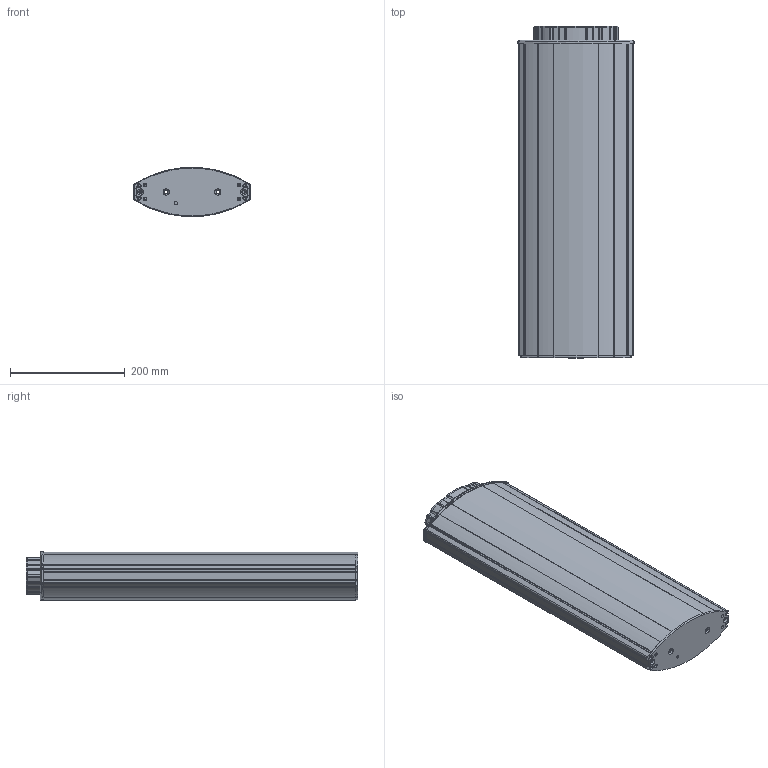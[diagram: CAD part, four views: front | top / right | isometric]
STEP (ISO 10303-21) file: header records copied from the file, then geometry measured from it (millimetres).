
FILE_DESCRIPTION (( 'STEP AP203' ), '1' );
FILE_NAME ('T180-3 eingefahren.STEP', '2008-04-25T09:01:37', ( 'PC' ), ( 'PC' ), 'SwSTEP 2.0', 'SolidWorks 2007', '' );
FILE_SCHEMA (( 'CONFIG_CONTROL_DESIGN' ));
Length unit declared in the file: millimetre
Products named in the file (21): Gleiterunterteil_Standard; T180M_Standard; Gleiteroberteil_Standard; Gleiterschraube_Standard; Brille M_Standard; GEWINDE_Standard; T180-3 eingefahren; fußplatte_3mm gelasert; T180A_Standard; Endschalterbetätiger_Standard; Gleiter_vormontiert; T180I_Standard; kopfplatte_Standard; Gleiter_eingestellt; Gleiterscheibe_Standard; Schalldämpfer#_Standard; Gleiter fest_Standard; Brille A_Standard
Assembly tree (34 placements, depth 4):
  T180-3 eingefahren
    GEWINDE_Standard
    fußplatte_3mm gelasert
    T180I_Standard
      Gleiter_eingestellt  x2
        Gleiteroberteil_Standard
        Gleiterschraube_Standard
        Gleiterscheibe_Standard
        Gleiterunterteil_Standard
      Schalldämpfer#_Standard
      T180I_Standard
      kopfplatte_Standard
      Gleiter fest_Standard  x2
    Brille A_Standard
    T180M_Standard
      Gleiter_eingestellt  x2
        Gleiteroberteil_Standard
        Gleiterschraube_Standard
        Gleiterscheibe_Standard
        Gleiterunterteil_Standard
      Gleiter fest_Standard  x2
      T180M_Standard
    Brille M_Standard
    T180A_Standard
      Gleiter fest_Standard  x2
      Endschalterbetätiger_Standard  x2
      Gleiter_eingestellt
        Gleiteroberteil_Standard
        Gleiterschraube_Standard
        Gleiterscheibe_Standard
        Gleiterunterteil_Standard
      T180A_Standard
      Gleiter_vormontiert
        Gleiteroberteil_Standard
        Gleiterunterteil_Standard
        Gleiterschraube_Standard
        Gleiterscheibe_Standard
Bounding box: 203.07 x 579 x 85.7 mm (x, y, z)
Volume: 2599086.7 mm3; surface area: 1624926.6 mm2
Topology: 41 solids, 41 shells, 2678 faces, 7450 edges, 4860 vertices
Faces by surface type: cylinder 1441, plane 922, torus 124, bspline 98, cone 93
Entity records: 78229 total; most frequent: CARTESIAN_POINT 19023, DIRECTION 12327, ORIENTED_EDGE 12056, EDGE_CURVE 6028, AXIS2_PLACEMENT_3D 4778, VERTEX_POINT 3939, LINE 2771, VECTOR 2771
